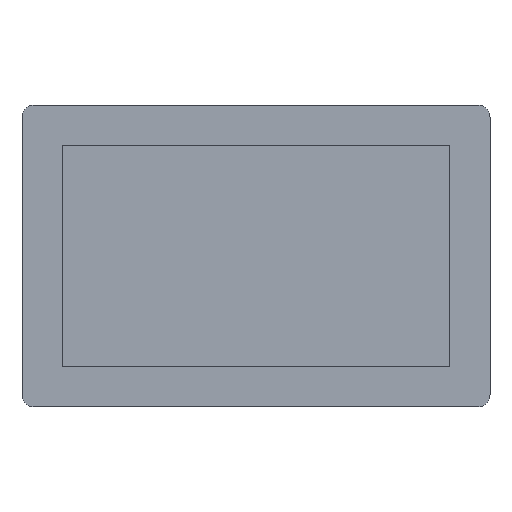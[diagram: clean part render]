
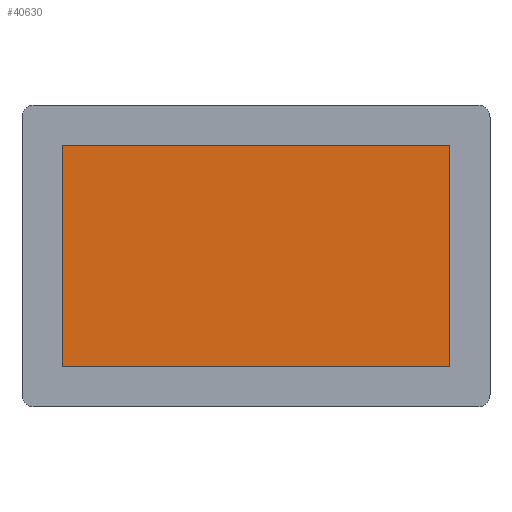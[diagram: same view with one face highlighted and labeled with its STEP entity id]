
A CAD part, top view. The second image highlights one B-rep face of the part: STEP entity #40630.
In plain terms, the highlighted planar face has unit normal (0, 0, 1).
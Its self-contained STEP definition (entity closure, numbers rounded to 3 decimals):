
#1813 = EDGE_CURVE ( 'NONE', #59231, #43028, #16164, .T. ) ;
#3250 = VERTEX_POINT ( 'NONE', #53497 ) ;
#4516 = CARTESIAN_POINT ( 'NONE',  ( 48.02, 27.425, 0. ) ) ;
#4723 = DIRECTION ( 'NONE',  ( 0., 1., 0. ) ) ;
#6408 = VECTOR ( 'NONE', #34672, 1000. ) ;
#7670 = VECTOR ( 'NONE', #55474, 1000. ) ;
#12655 = EDGE_CURVE ( 'NONE', #43028, #49037, #15920, .T. ) ;
#13679 = DIRECTION ( 'NONE',  ( 0., 0., -1. ) ) ;
#14323 = CARTESIAN_POINT ( 'NONE',  ( 48.02, 27.425, 0. ) ) ;
#15920 = LINE ( 'NONE', #43699, #36524 ) ;
#16164 = LINE ( 'NONE', #40025, #7670 ) ;
#20072 = ORIENTED_EDGE ( 'NONE', *, *, #12655, .T. ) ;
#23955 = DIRECTION ( 'NONE',  ( -1., 0., 0. ) ) ;
#24296 = CARTESIAN_POINT ( 'NONE',  ( 0., 0., 0. ) ) ;
#24619 = DIRECTION ( 'NONE',  ( -1., 0., 0. ) ) ;
#28900 = CARTESIAN_POINT ( 'NONE',  ( -48.02, -27.425, 0. ) ) ;
#33696 = CARTESIAN_POINT ( 'NONE',  ( -48.02, 27.425, 0. ) ) ;
#34297 = PLANE ( 'NONE',  #47689 ) ;
#34631 = FACE_OUTER_BOUND ( 'NONE', #52884, .T. ) ;
#34672 = DIRECTION ( 'NONE',  ( 0., -1., 0. ) ) ;
#36524 = VECTOR ( 'NONE', #4723, 1000. ) ;
#40025 = CARTESIAN_POINT ( 'NONE',  ( 48.02, -27.425, 0. ) ) ;
#40051 = ORIENTED_EDGE ( 'NONE', *, *, #40663, .T. ) ;
#40630 = ADVANCED_FACE ( 'NONE', ( #34631 ), #34297, .F. ) ;
#40663 = EDGE_CURVE ( 'NONE', #49037, #3250, #62658, .T. ) ;
#43028 = VERTEX_POINT ( 'NONE', #54296 ) ;
#43699 = CARTESIAN_POINT ( 'NONE',  ( 48.02, 27.425, 0. ) ) ;
#47689 = AXIS2_PLACEMENT_3D ( 'NONE', #24296, #13679, #23955 ) ;
#49037 = VERTEX_POINT ( 'NONE', #4516 ) ;
#49089 = ORIENTED_EDGE ( 'NONE', *, *, #49439, .T. ) ;
#49439 = EDGE_CURVE ( 'NONE', #3250, #59231, #59180, .T. ) ;
#52739 = ORIENTED_EDGE ( 'NONE', *, *, #1813, .T. ) ;
#52884 = EDGE_LOOP ( 'NONE', ( #20072, #40051, #49089, #52739 ) ) ;
#53497 = CARTESIAN_POINT ( 'NONE',  ( -48.02, 27.425, 0. ) ) ;
#54296 = CARTESIAN_POINT ( 'NONE',  ( 48.02, -27.425, 0. ) ) ;
#54957 = VECTOR ( 'NONE', #24619, 1000. ) ;
#55474 = DIRECTION ( 'NONE',  ( 1., 0., 0. ) ) ;
#59180 = LINE ( 'NONE', #33696, #6408 ) ;
#59231 = VERTEX_POINT ( 'NONE', #28900 ) ;
#62658 = LINE ( 'NONE', #14323, #54957 ) ;
